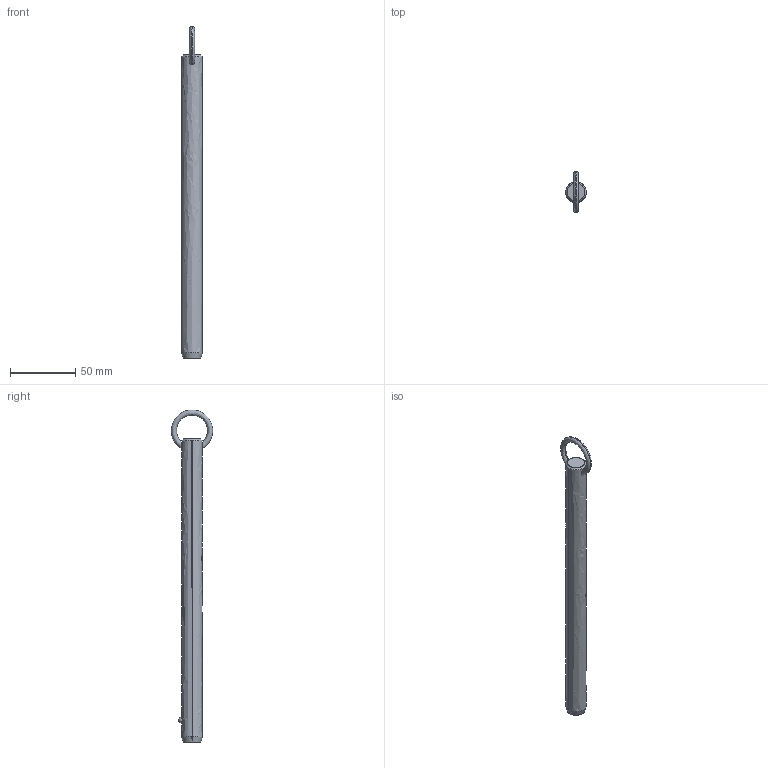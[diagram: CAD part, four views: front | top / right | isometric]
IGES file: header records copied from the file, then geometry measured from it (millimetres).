
Start section: SolidWorks IGES file using analytic representation for surfaces
Global section: file name: C:\Users\liam_\OneDrive\Documents\WORK\Work for WixRoyd\Job Files\J-00019 - Matt Davis CAD Checking\04. CAD Drawings\automotion20190605\P1250.2_v2\P1250.2_v2_20190729_IGES\P1250.062-800.igs; native system: SolidWorks 2017; preprocessor: SolidWorks 2017; author: liam_; date: 190729.234621; units: millimetre
Bounding box: 15.8 x 31.7 x 253.9 mm (x, y, z)
Surface area: 12674.8 mm2 (no closed solid volume)
Topology: 0 solids, 0 shells, 12 faces, 292 edges, 290 vertices
Faces by surface type: revolution 8, bspline 4
